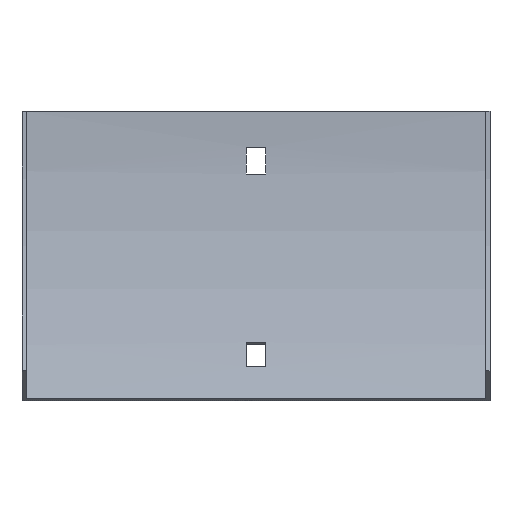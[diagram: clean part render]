
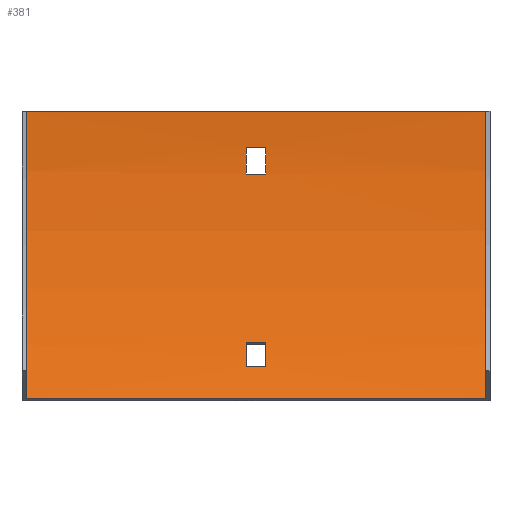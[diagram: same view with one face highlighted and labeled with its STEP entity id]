
A CAD part, front view. The second image highlights one B-rep face of the part: STEP entity #381.
In plain terms, the highlighted cylindrical face has radius 192.5 mm (diameter 385 mm), a partial arc.
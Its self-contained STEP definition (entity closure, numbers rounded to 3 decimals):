
#2 = EDGE_LOOP ( 'NONE', ( #319, #6, #385, #432 ) ) ;
#6 = ORIENTED_EDGE ( 'NONE', *, *, #424, .F. ) ;
#8 = EDGE_CURVE ( 'NONE', #313, #358, #57, .T. ) ;
#13 = CARTESIAN_POINT ( 'NONE',  ( -3.25, -194., 0. ) ) ;
#28 = VERTEX_POINT ( 'NONE', #69 ) ;
#32 = EDGE_CURVE ( 'NONE', #536, #48, #578, .T. ) ;
#35 = LINE ( 'NONE', #499, #293 ) ;
#36 = CARTESIAN_POINT ( 'NONE',  ( -77., -27.29, -96.25 ) ) ;
#37 = VERTEX_POINT ( 'NONE', #492 ) ;
#40 = CARTESIAN_POINT ( 'NONE',  ( 78.5, -194., 0. ) ) ;
#48 = VERTEX_POINT ( 'NONE', #256 ) ;
#57 = LINE ( 'NONE', #152, #210 ) ;
#61 = ORIENTED_EDGE ( 'NONE', *, *, #94, .F. ) ;
#62 = CARTESIAN_POINT ( 'NONE',  ( 3.25, -194., 0. ) ) ;
#69 = CARTESIAN_POINT ( 'NONE',  ( 3.25, -1.874, -12. ) ) ;
#71 = VECTOR ( 'NONE', #426, 1000. ) ;
#74 = ORIENTED_EDGE ( 'NONE', *, *, #547, .T. ) ;
#75 = CARTESIAN_POINT ( 'NONE',  ( 3.25, -194., 0. ) ) ;
#76 = DIRECTION ( 'NONE',  ( 1., 0., 0. ) ) ;
#87 = ORIENTED_EDGE ( 'NONE', *, *, #523, .F. ) ;
#94 = EDGE_CURVE ( 'NONE', #536, #606, #131, .T. ) ;
#109 = CARTESIAN_POINT ( 'NONE',  ( -3.25, -2.649, -21. ) ) ;
#111 = CIRCLE ( 'NONE', #576, 192.5 ) ;
#119 = LINE ( 'NONE', #213, #288 ) ;
#121 = AXIS2_PLACEMENT_3D ( 'NONE', #13, #429, #470 ) ;
#131 = LINE ( 'NONE', #455, #185 ) ;
#138 = ORIENTED_EDGE ( 'NONE', *, *, #326, .T. ) ;
#142 = LINE ( 'NONE', #422, #154 ) ;
#152 = CARTESIAN_POINT ( 'NONE',  ( 78.5, -21.614, -85.671 ) ) ;
#154 = VECTOR ( 'NONE', #327, 1000. ) ;
#171 = DIRECTION ( 'NONE',  ( 1., 0., 0. ) ) ;
#185 = VECTOR ( 'NONE', #433, 1000. ) ;
#199 = LINE ( 'NONE', #428, #71 ) ;
#202 = DIRECTION ( 'NONE',  ( 1., 0., 0. ) ) ;
#204 = DIRECTION ( 'NONE',  ( 0., 0., 1. ) ) ;
#208 = EDGE_CURVE ( 'NONE', #48, #408, #199, .T. ) ;
#210 = VECTOR ( 'NONE', #340, 1000. ) ;
#213 = CARTESIAN_POINT ( 'NONE',  ( 78.5, -17.785, -77.489 ) ) ;
#217 = DIRECTION ( 'NONE',  ( 0., 0., 1. ) ) ;
#220 = VERTEX_POINT ( 'NONE', #515 ) ;
#222 = DIRECTION ( 'NONE',  ( 0., 0., -1. ) ) ;
#226 = FACE_BOUND ( 'NONE', #2, .T. ) ;
#234 = FACE_OUTER_BOUND ( 'NONE', #440, .T. ) ;
#249 = DIRECTION ( 'NONE',  ( -1., 0., 0. ) ) ;
#256 = CARTESIAN_POINT ( 'NONE',  ( 77., -1.5, 0. ) ) ;
#260 = EDGE_CURVE ( 'NONE', #483, #596, #142, .T. ) ;
#288 = VECTOR ( 'NONE', #171, 1000. ) ;
#293 = VECTOR ( 'NONE', #445, 1000. ) ;
#303 = CIRCLE ( 'NONE', #507, 192.5 ) ;
#304 = DIRECTION ( 'NONE',  ( 0., 0., -1. ) ) ;
#306 = CYLINDRICAL_SURFACE ( 'NONE', #571, 192.5 ) ;
#313 = VERTEX_POINT ( 'NONE', #346 ) ;
#318 = EDGE_CURVE ( 'NONE', #579, #483, #575, .T. ) ;
#319 = ORIENTED_EDGE ( 'NONE', *, *, #318, .F. ) ;
#326 = EDGE_CURVE ( 'NONE', #37, #313, #527, .T. ) ;
#327 = DIRECTION ( 'NONE',  ( 1., 0., 0. ) ) ;
#329 = ORIENTED_EDGE ( 'NONE', *, *, #8, .T. ) ;
#337 = EDGE_LOOP ( 'NONE', ( #329, #74, #548, #138 ) ) ;
#340 = DIRECTION ( 'NONE',  ( -1., 0., 0. ) ) ;
#342 = AXIS2_PLACEMENT_3D ( 'NONE', #352, #505, #416 ) ;
#346 = CARTESIAN_POINT ( 'NONE',  ( 3.25, -21.614, -85.671 ) ) ;
#349 = AXIS2_PLACEMENT_3D ( 'NONE', #75, #594, #222 ) ;
#352 = CARTESIAN_POINT ( 'NONE',  ( 77., -194., 0. ) ) ;
#358 = VERTEX_POINT ( 'NONE', #452 ) ;
#381 = ADVANCED_FACE ( 'NONE', ( #226, #234, #559 ), #306, .F. ) ;
#384 = EDGE_CURVE ( 'NONE', #596, #28, #438, .T. ) ;
#385 = ORIENTED_EDGE ( 'NONE', *, *, #384, .F. ) ;
#391 = DIRECTION ( 'NONE',  ( 0., 0., 1. ) ) ;
#404 = CARTESIAN_POINT ( 'NONE',  ( -3.25, -194., 0. ) ) ;
#408 = VERTEX_POINT ( 'NONE', #603 ) ;
#416 = DIRECTION ( 'NONE',  ( 0., 0., 1. ) ) ;
#422 = CARTESIAN_POINT ( 'NONE',  ( 78.5, -2.649, -21. ) ) ;
#424 = EDGE_CURVE ( 'NONE', #28, #579, #35, .T. ) ;
#426 = DIRECTION ( 'NONE',  ( -1., 0., 0. ) ) ;
#428 = CARTESIAN_POINT ( 'NONE',  ( 77., -1.5, 0. ) ) ;
#429 = DIRECTION ( 'NONE',  ( -1., 0., 0. ) ) ;
#432 = ORIENTED_EDGE ( 'NONE', *, *, #260, .F. ) ;
#433 = DIRECTION ( 'NONE',  ( -1., 0., 0. ) ) ;
#438 = CIRCLE ( 'NONE', #349, 192.5 ) ;
#439 = CARTESIAN_POINT ( 'NONE',  ( -3.25, -1.874, -12. ) ) ;
#440 = EDGE_LOOP ( 'NONE', ( #87, #61, #487, #501 ) ) ;
#445 = DIRECTION ( 'NONE',  ( -1., 0., 0. ) ) ;
#452 = CARTESIAN_POINT ( 'NONE',  ( -3.25, -21.614, -85.671 ) ) ;
#455 = CARTESIAN_POINT ( 'NONE',  ( 77., -27.29, -96.25 ) ) ;
#470 = DIRECTION ( 'NONE',  ( 0., 0., 1. ) ) ;
#475 = AXIS2_PLACEMENT_3D ( 'NONE', #62, #249, #204 ) ;
#477 = CARTESIAN_POINT ( 'NONE',  ( 77., -27.29, -96.25 ) ) ;
#483 = VERTEX_POINT ( 'NONE', #109 ) ;
#487 = ORIENTED_EDGE ( 'NONE', *, *, #32, .T. ) ;
#488 = DIRECTION ( 'NONE',  ( -1., 0., 0. ) ) ;
#492 = CARTESIAN_POINT ( 'NONE',  ( 3.25, -17.785, -77.489 ) ) ;
#499 = CARTESIAN_POINT ( 'NONE',  ( 78.5, -1.874, -12. ) ) ;
#501 = ORIENTED_EDGE ( 'NONE', *, *, #208, .T. ) ;
#505 = DIRECTION ( 'NONE',  ( 1., 0., 0. ) ) ;
#507 = AXIS2_PLACEMENT_3D ( 'NONE', #530, #202, #391 ) ;
#515 = CARTESIAN_POINT ( 'NONE',  ( -3.25, -17.785, -77.489 ) ) ;
#523 = EDGE_CURVE ( 'NONE', #606, #408, #303, .T. ) ;
#527 = CIRCLE ( 'NONE', #475, 192.5 ) ;
#530 = CARTESIAN_POINT ( 'NONE',  ( -77., -194., 0. ) ) ;
#534 = CARTESIAN_POINT ( 'NONE',  ( 3.25, -2.649, -21. ) ) ;
#536 = VERTEX_POINT ( 'NONE', #477 ) ;
#547 = EDGE_CURVE ( 'NONE', #358, #220, #111, .T. ) ;
#548 = ORIENTED_EDGE ( 'NONE', *, *, #605, .T. ) ;
#559 = FACE_BOUND ( 'NONE', #337, .T. ) ;
#571 = AXIS2_PLACEMENT_3D ( 'NONE', #40, #488, #217 ) ;
#575 = CIRCLE ( 'NONE', #121, 192.5 ) ;
#576 = AXIS2_PLACEMENT_3D ( 'NONE', #404, #76, #304 ) ;
#578 = CIRCLE ( 'NONE', #342, 192.5 ) ;
#579 = VERTEX_POINT ( 'NONE', #439 ) ;
#594 = DIRECTION ( 'NONE',  ( 1., 0., 0. ) ) ;
#596 = VERTEX_POINT ( 'NONE', #534 ) ;
#603 = CARTESIAN_POINT ( 'NONE',  ( -77., -1.5, 0. ) ) ;
#605 = EDGE_CURVE ( 'NONE', #220, #37, #119, .T. ) ;
#606 = VERTEX_POINT ( 'NONE', #36 ) ;
